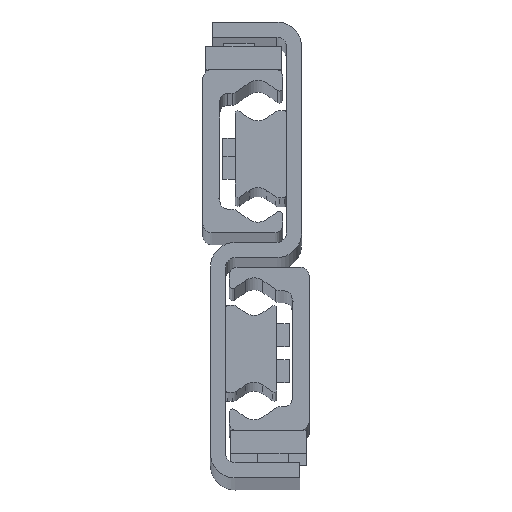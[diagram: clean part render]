
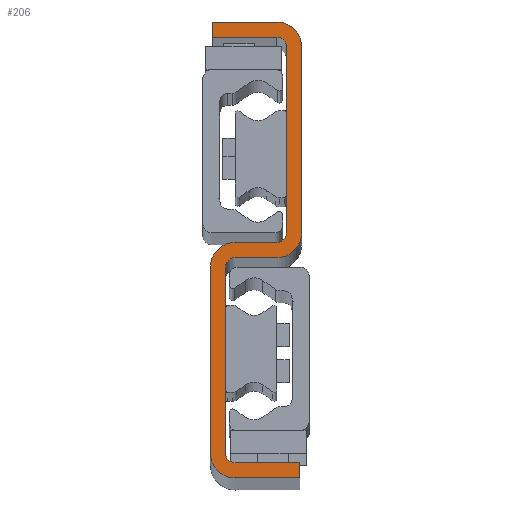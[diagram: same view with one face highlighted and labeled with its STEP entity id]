
A CAD part, top view. The second image highlights one B-rep face of the part: STEP entity #206.
In plain terms, the highlighted planar face has unit normal (0, 0, 1).
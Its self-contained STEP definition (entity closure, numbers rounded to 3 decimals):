
#206=ADVANCED_FACE('',(#761),#762,.T.);
#761=FACE_OUTER_BOUND('',#1683,.T.);
#762=PLANE('',#1684);
#1683=EDGE_LOOP('',(#3325,#3326,#3327,#3328,#3329,#3330,#3331,#3332,#3333,#3334,#3335,#3336,#3337,#3338,#3339,#3340,#3341,#3342,#3343,#3344));
#1684=AXIS2_PLACEMENT_3D('',#3345,#3346,#3347);
#3325=ORIENTED_EDGE('',*,*,#5905,.F.);
#3326=ORIENTED_EDGE('',*,*,#5963,.F.);
#3327=ORIENTED_EDGE('',*,*,#5960,.F.);
#3328=ORIENTED_EDGE('',*,*,#5957,.F.);
#3329=ORIENTED_EDGE('',*,*,#5954,.F.);
#3330=ORIENTED_EDGE('',*,*,#5951,.F.);
#3331=ORIENTED_EDGE('',*,*,#5948,.F.);
#3332=ORIENTED_EDGE('',*,*,#5945,.F.);
#3333=ORIENTED_EDGE('',*,*,#5942,.F.);
#3334=ORIENTED_EDGE('',*,*,#5939,.F.);
#3335=ORIENTED_EDGE('',*,*,#5936,.F.);
#3336=ORIENTED_EDGE('',*,*,#5933,.F.);
#3337=ORIENTED_EDGE('',*,*,#5930,.F.);
#3338=ORIENTED_EDGE('',*,*,#5927,.F.);
#3339=ORIENTED_EDGE('',*,*,#5924,.F.);
#3340=ORIENTED_EDGE('',*,*,#5921,.F.);
#3341=ORIENTED_EDGE('',*,*,#5918,.F.);
#3342=ORIENTED_EDGE('',*,*,#5915,.F.);
#3343=ORIENTED_EDGE('',*,*,#5912,.F.);
#3344=ORIENTED_EDGE('',*,*,#5909,.F.);
#3345=CARTESIAN_POINT('',(-14.,26.,1810.0));
#3346=DIRECTION('',(0.0,0.0,1.0));
#3347=DIRECTION('',(1.0,0.0,0.0));
#5905=EDGE_CURVE('',#7143,#7144,#7145,.T.);
#5909=EDGE_CURVE('',#7144,#7151,#7152,.T.);
#5912=EDGE_CURVE('',#7151,#7156,#7157,.T.);
#5915=EDGE_CURVE('',#7156,#7161,#7162,.T.);
#5918=EDGE_CURVE('',#7161,#7166,#7167,.T.);
#5921=EDGE_CURVE('',#7166,#7171,#7172,.T.);
#5924=EDGE_CURVE('',#7171,#7176,#7177,.T.);
#5927=EDGE_CURVE('',#7176,#7181,#7182,.T.);
#5930=EDGE_CURVE('',#7181,#7186,#7187,.T.);
#5933=EDGE_CURVE('',#7186,#7191,#7192,.T.);
#5936=EDGE_CURVE('',#7191,#7196,#7197,.T.);
#5939=EDGE_CURVE('',#7196,#7201,#7202,.T.);
#5942=EDGE_CURVE('',#7201,#7206,#7207,.T.);
#5945=EDGE_CURVE('',#7206,#7211,#7212,.T.);
#5948=EDGE_CURVE('',#7211,#7216,#7217,.T.);
#5951=EDGE_CURVE('',#7216,#7221,#7222,.T.);
#5954=EDGE_CURVE('',#7221,#7226,#7227,.T.);
#5957=EDGE_CURVE('',#7226,#7231,#7232,.T.);
#5960=EDGE_CURVE('',#7231,#7236,#7237,.T.);
#5963=EDGE_CURVE('',#7236,#7143,#7241,.T.);
#7143=VERTEX_POINT('',#9065);
#7144=VERTEX_POINT('',#9066);
#7145=LINE('',#9067,#9068);
#7151=VERTEX_POINT('',#9077);
#7152=CIRCLE('',#9078,2.5);
#7156=VERTEX_POINT('',#9083);
#7157=LINE('',#9084,#9085);
#7161=VERTEX_POINT('',#9091);
#7162=CIRCLE('',#9092,2.5);
#7166=VERTEX_POINT('',#9097);
#7167=LINE('',#9098,#9099);
#7171=VERTEX_POINT('',#9105);
#7172=LINE('',#9106,#9107);
#7176=VERTEX_POINT('',#9113);
#7177=LINE('',#9114,#9115);
#7181=VERTEX_POINT('',#9121);
#7182=CIRCLE('',#9122,6.5);
#7186=VERTEX_POINT('',#9127);
#7187=LINE('',#9128,#9129);
#7191=VERTEX_POINT('',#9135);
#7192=CIRCLE('',#9136,6.5);
#7196=VERTEX_POINT('',#9141);
#7197=LINE('',#9142,#9143);
#7201=VERTEX_POINT('',#9149);
#7202=CIRCLE('',#9150,2.5);
#7206=VERTEX_POINT('',#9155);
#7207=LINE('',#9156,#9157);
#7211=VERTEX_POINT('',#9163);
#7212=CIRCLE('',#9164,2.5);
#7216=VERTEX_POINT('',#9169);
#7217=LINE('',#9170,#9171);
#7221=VERTEX_POINT('',#9177);
#7222=LINE('',#9178,#9179);
#7226=VERTEX_POINT('',#9185);
#7227=LINE('',#9186,#9187);
#7231=VERTEX_POINT('',#9193);
#7232=CIRCLE('',#9194,6.5);
#7236=VERTEX_POINT('',#9199);
#7237=LINE('',#9200,#9201);
#7241=CIRCLE('',#9207,6.5);
#9065=CARTESIAN_POINT('',(-8.5,24.,1810.0));
#9066=CARTESIAN_POINT('',(-19.5,24.,1810.0));
#9067=CARTESIAN_POINT('',(-8.5,24.,1810.0));
#9068=VECTOR('',#11181,1.0);
#9077=CARTESIAN_POINT('',(-22.,21.5,1810.0));
#9078=AXIS2_PLACEMENT_3D('',#11185,#11186,#11187);
#9083=CARTESIAN_POINT('',(-22.,-27.5,1810.0));
#9084=CARTESIAN_POINT('',(-22.,-27.5,1810.0));
#9085=VECTOR('',#11192,1.0);
#9091=CARTESIAN_POINT('',(-19.5,-30.,1810.0));
#9092=AXIS2_PLACEMENT_3D('',#11195,#11196,#11197);
#9097=CARTESIAN_POINT('',(-2.5,-30.,1810.0));
#9098=CARTESIAN_POINT('',(-19.5,-30.,1810.0));
#9099=VECTOR('',#11202,1.0);
#9105=CARTESIAN_POINT('',(-2.5,-34.,1810.0));
#9106=CARTESIAN_POINT('',(-2.5,-34.,1810.0));
#9107=VECTOR('',#11205,1.0);
#9113=CARTESIAN_POINT('',(-19.5,-34.,1810.0));
#9114=CARTESIAN_POINT('',(-19.5,-34.,1810.0));
#9115=VECTOR('',#11208,1.0);
#9121=CARTESIAN_POINT('',(-26.,-27.5,1810.0));
#9122=AXIS2_PLACEMENT_3D('',#11211,#11212,#11213);
#9127=CARTESIAN_POINT('',(-26.,21.5,1810.0));
#9128=CARTESIAN_POINT('',(-26.,21.5,1810.0));
#9129=VECTOR('',#11218,1.0);
#9135=CARTESIAN_POINT('',(-19.5,28.,1810.0));
#9136=AXIS2_PLACEMENT_3D('',#11221,#11222,#11223);
#9141=CARTESIAN_POINT('',(-8.5,28.,1810.0));
#9142=CARTESIAN_POINT('',(-8.5,28.,1810.0));
#9143=VECTOR('',#11228,1.0);
#9149=CARTESIAN_POINT('',(-6.,30.5,1810.0));
#9150=AXIS2_PLACEMENT_3D('',#11231,#11232,#11233);
#9155=CARTESIAN_POINT('',(-6.,79.5,1810.0));
#9156=CARTESIAN_POINT('',(-6.,79.5,1810.0));
#9157=VECTOR('',#11238,1.0);
#9163=CARTESIAN_POINT('',(-8.5,82.,1810.0));
#9164=AXIS2_PLACEMENT_3D('',#11241,#11242,#11243);
#9169=CARTESIAN_POINT('',(-25.5,82.,1810.0));
#9170=CARTESIAN_POINT('',(-25.5,82.,1810.0));
#9171=VECTOR('',#11248,1.0);
#9177=CARTESIAN_POINT('',(-25.5,86.,1810.0));
#9178=CARTESIAN_POINT('',(-25.5,86.,1810.0));
#9179=VECTOR('',#11251,1.0);
#9185=CARTESIAN_POINT('',(-8.5,86.,1810.0));
#9186=CARTESIAN_POINT('',(-25.5,86.,1810.0));
#9187=VECTOR('',#11254,1.0);
#9193=CARTESIAN_POINT('',(-2.,79.5,1810.0));
#9194=AXIS2_PLACEMENT_3D('',#11257,#11258,#11259);
#9199=CARTESIAN_POINT('',(-2.,30.5,1810.0));
#9200=CARTESIAN_POINT('',(-2.,79.5,1810.0));
#9201=VECTOR('',#11264,1.0);
#9207=AXIS2_PLACEMENT_3D('',#11267,#11268,#11269);
#11181=DIRECTION('',(-1.0,0.,0.0));
#11185=CARTESIAN_POINT('',(-19.5,21.5,1810.0));
#11186=DIRECTION('',(0.0,0.0,1.0));
#11187=DIRECTION('',(1.0,0.0,0.0));
#11192=DIRECTION('',(-0.0,-1.0,-0.0));
#11195=CARTESIAN_POINT('',(-19.5,-27.5,1810.0));
#11196=DIRECTION('',(0.0,0.0,1.0));
#11197=DIRECTION('',(1.0,0.0,0.0));
#11202=DIRECTION('',(1.,0.,0.0));
#11205=DIRECTION('',(-0.0,-1.0,-0.0));
#11208=DIRECTION('',(-1.,0.,-0.0));
#11211=CARTESIAN_POINT('',(-19.5,-27.5,1810.0));
#11212=DIRECTION('',(0.0,0.0,-1.0));
#11213=DIRECTION('',(1.0,0.0,0.0));
#11218=DIRECTION('',(0.0,1.0,0.0));
#11221=CARTESIAN_POINT('',(-19.5,21.5,1810.0));
#11222=DIRECTION('',(0.0,0.0,-1.0));
#11223=DIRECTION('',(1.0,0.0,0.0));
#11228=DIRECTION('',(1.0,0.,0.0));
#11231=CARTESIAN_POINT('',(-8.5,30.5,1810.0));
#11232=DIRECTION('',(0.0,0.0,1.0));
#11233=DIRECTION('',(1.0,0.0,0.0));
#11238=DIRECTION('',(0.0,1.0,0.0));
#11241=CARTESIAN_POINT('',(-8.5,79.5,1810.0));
#11242=DIRECTION('',(0.0,0.0,1.0));
#11243=DIRECTION('',(1.0,0.0,0.0));
#11248=DIRECTION('',(-1.,0.,0.0));
#11251=DIRECTION('',(0.0,1.0,0.0));
#11254=DIRECTION('',(1.,0.,0.0));
#11257=CARTESIAN_POINT('',(-8.5,79.5,1810.0));
#11258=DIRECTION('',(0.0,0.0,-1.0));
#11259=DIRECTION('',(1.0,0.0,0.0));
#11264=DIRECTION('',(0.,-1.0,0.0));
#11267=CARTESIAN_POINT('',(-8.5,30.5,1810.0));
#11268=DIRECTION('',(0.0,0.0,-1.0));
#11269=DIRECTION('',(1.0,0.0,0.0));
